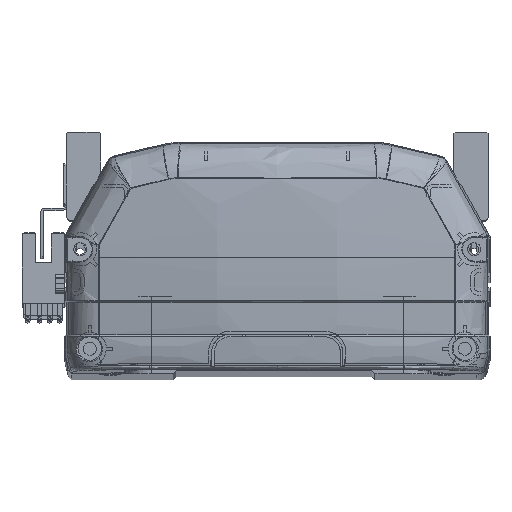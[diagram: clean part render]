
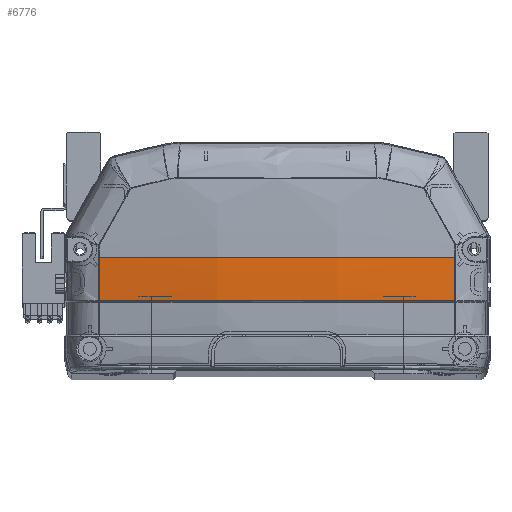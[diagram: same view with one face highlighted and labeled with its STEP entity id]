
A CAD part, top view. The second image highlights one B-rep face of the part: STEP entity #6776.
In plain terms, the highlighted free-form (B-spline) face has degree [3, 3] with [4, 4] control points.
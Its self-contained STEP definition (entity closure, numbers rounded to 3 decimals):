
#301 = CARTESIAN_POINT ( 'NONE',  ( 0., 36., 330.833 ) ) ;
#1183 = CARTESIAN_POINT ( 'NONE',  ( -56.661, 22.225, -4.818 ) ) ;
#1732 = CARTESIAN_POINT ( 'NONE',  ( 19.295, 26.549, -11.419 ) ) ;
#2045 = CARTESIAN_POINT ( 'NONE',  ( 57.335, 22.148, -4.7 ) ) ;
#2264 = CARTESIAN_POINT ( 'NONE',  ( 56.652, 26.806, -5.044 ) ) ;
#2423 = CARTESIAN_POINT ( 'NONE',  ( -56.661, 22.225, -4.818 ) ) ;
#4321 = CARTESIAN_POINT ( 'NONE',  ( -56.647, 36., -5.158 ) ) ;
#4584 = VERTEX_POINT ( 'NONE', #19327 ) ;
#5276 = CARTESIAN_POINT ( 'NONE',  ( -19.295, 21.828, -11.186 ) ) ;
#5638 = ORIENTED_EDGE ( 'NONE', *, *, #15032, .T. ) ;
#6036 = VERTEX_POINT ( 'NONE', #16436 ) ;
#6749 = B_SPLINE_CURVE_WITH_KNOTS ( 'NONE', 3,
 ( #42855, #2264, #28297, #27973 ),
 .UNSPECIFIED., .F., .F.,
 ( 4, 4 ),
 ( 0., 1. ),
 .UNSPECIFIED. ) ;
#6776 = ADVANCED_FACE ( 'NONE', ( #15512 ), #41373, .T. ) ;
#8910 = CARTESIAN_POINT ( 'NONE',  ( 47.432, 22.225, -6.377 ) ) ;
#9265 = CARTESIAN_POINT ( 'NONE',  ( -19.295, 36., -11.535 ) ) ;
#9410 = CARTESIAN_POINT ( 'NONE',  ( -57.335, 22.148, -4.7 ) ) ;
#11069 = AXIS2_PLACEMENT_3D ( 'NONE', #11828, #42309, #43116 ) ;
#11828 = CARTESIAN_POINT ( 'NONE',  ( 6452.613, 35.969, -5.158 ) ) ;
#12562 = CARTESIAN_POINT ( 'NONE',  ( 56.647, 36., -5.158 ) ) ;
#12620 = CIRCLE ( 'NONE', #28187, 340.733 ) ;
#12927 = CARTESIAN_POINT ( 'NONE',  ( 19.121, 22.225, -9.064 ) ) ;
#13111 = CARTESIAN_POINT ( 'NONE',  ( 57.335, 36., -5.042 ) ) ;
#15032 = EDGE_CURVE ( 'NONE', #6036, #29441, #15842, .T. ) ;
#15512 = FACE_OUTER_BOUND ( 'NONE', #29363, .T. ) ;
#15842 = B_SPLINE_CURVE_WITH_KNOTS ( 'NONE', 3,
 ( #45708, #8910, #16134, #45558, #12927, #30947, #20148, #34578, #16285, #23852, #31098, #16607, #38435 ),
 .UNSPECIFIED., .F., .F.,
 ( 4, 2, 2, 1, 2, 2, 4 ),
 ( 0., 0.25, 0.375, 0.438, 0.469, 0.5, 1. ),
 .UNSPECIFIED. ) ;
#16134 = CARTESIAN_POINT ( 'NONE',  ( 38.071, 22.225, -7.566 ) ) ;
#16285 = CARTESIAN_POINT ( 'NONE',  ( 2.357, 22.225, -9.562 ) ) ;
#16436 = CARTESIAN_POINT ( 'NONE',  ( 56.661, 22.225, -4.818 ) ) ;
#16607 = CARTESIAN_POINT ( 'NONE',  ( -38.235, 22.225, -7.93 ) ) ;
#16790 = CARTESIAN_POINT ( 'NONE',  ( 57.335, 26.762, -4.928 ) ) ;
#17060 = VERTEX_POINT ( 'NONE', #12562 ) ;
#19327 = CARTESIAN_POINT ( 'NONE',  ( 56.647, 35.969, -5.158 ) ) ;
#20148 = CARTESIAN_POINT ( 'NONE',  ( 8.363, 22.225, -9.48 ) ) ;
#20487 = CARTESIAN_POINT ( 'NONE',  ( 19.295, 36., -11.535 ) ) ;
#20670 = ORIENTED_EDGE ( 'NONE', *, *, #35273, .F. ) ;
#21576 = EDGE_CURVE ( 'NONE', #17060, #36621, #12620, .T. ) ;
#23852 = CARTESIAN_POINT ( 'NONE',  ( 1.152, 22.225, -9.568 ) ) ;
#23878 = CARTESIAN_POINT ( 'NONE',  ( -19.295, 26.549, -11.419 ) ) ;
#23970 = CIRCLE ( 'NONE', #11069, 6395.966 ) ;
#24855 = CARTESIAN_POINT ( 'NONE',  ( -56.652, 26.814, -5.045 ) ) ;
#27287 = CARTESIAN_POINT ( 'NONE',  ( 19.295, 31.274, -11.535 ) ) ;
#27611 = CARTESIAN_POINT ( 'NONE',  ( 57.335, 31.38, -5.042 ) ) ;
#27921 = CARTESIAN_POINT ( 'NONE',  ( -57.335, 31.38, -5.042 ) ) ;
#27973 = CARTESIAN_POINT ( 'NONE',  ( 56.647, 35.969, -5.158 ) ) ;
#28187 = AXIS2_PLACEMENT_3D ( 'NONE', #301, #29444, #40619 ) ;
#28297 = CARTESIAN_POINT ( 'NONE',  ( 56.647, 31.387, -5.158 ) ) ;
#29363 = EDGE_LOOP ( 'NONE', ( #37992, #42137, #44738, #5638, #20670 ) ) ;
#29441 = VERTEX_POINT ( 'NONE', #1183 ) ;
#29444 = DIRECTION ( 'NONE',  ( 0., 1., 0. ) ) ;
#30947 = CARTESIAN_POINT ( 'NONE',  ( 11.954, 22.225, -9.367 ) ) ;
#30968 = CARTESIAN_POINT ( 'NONE',  ( -19.295, 31.274, -11.535 ) ) ;
#31098 = CARTESIAN_POINT ( 'NONE',  ( -19.28, 22.225, -9.565 ) ) ;
#31576 = EDGE_CURVE ( 'NONE', #4584, #17060, #23970, .T. ) ;
#31588 = CARTESIAN_POINT ( 'NONE',  ( 19.295, 21.828, -11.186 ) ) ;
#31970 = B_SPLINE_CURVE_WITH_KNOTS ( 'NONE', 3,
 ( #35908, #46255, #24855, #2423 ),
 .UNSPECIFIED., .F., .F.,
 ( 4, 4 ),
 ( 0., 1. ),
 .UNSPECIFIED. ) ;
#34578 = CARTESIAN_POINT ( 'NONE',  ( 4.761, 22.225, -9.537 ) ) ;
#35273 = EDGE_CURVE ( 'NONE', #36621, #29441, #31970, .T. ) ;
#35280 = EDGE_CURVE ( 'NONE', #6036, #4584, #6749, .T. ) ;
#35908 = CARTESIAN_POINT ( 'NONE',  ( -56.647, 36., -5.158 ) ) ;
#36621 = VERTEX_POINT ( 'NONE', #4321 ) ;
#37992 = ORIENTED_EDGE ( 'NONE', *, *, #21576, .F. ) ;
#38298 = CARTESIAN_POINT ( 'NONE',  ( -57.335, 26.762, -4.928 ) ) ;
#38435 = CARTESIAN_POINT ( 'NONE',  ( -56.661, 22.225, -4.818 ) ) ;
#40619 = DIRECTION ( 'NONE',  ( 0., 0., -1. ) ) ;
#41373 =( BOUNDED_SURFACE ( )  B_SPLINE_SURFACE ( 3, 3, ( 
 ( #2045, #16790, #27611, #13111 ),
 ( #31588, #1732, #27287, #20487 ),
 ( #5276, #23878, #30968, #9265 ),
 ( #9410, #38298, #27921, #46210 ) ),
 .UNSPECIFIED., .F., .F., .T. ) 
 B_SPLINE_SURFACE_WITH_KNOTS ( ( 4, 4 ),
 ( 4, 4 ),
 ( 0., 1. ),
 ( 0., 1. ),
 .UNSPECIFIED. ) 
 GEOMETRIC_REPRESENTATION_ITEM ( )  RATIONAL_B_SPLINE_SURFACE ( (
 ( 1., 1., 1., 1.),
 ( 0.99, 0.99, 0.99, 0.99),
 ( 0.99, 0.99, 0.99, 0.99),
 ( 1., 1., 1., 1.) ) ) 
 REPRESENTATION_ITEM ( '' )  SURFACE ( )  );
#42137 = ORIENTED_EDGE ( 'NONE', *, *, #31576, .F. ) ;
#42309 = DIRECTION ( 'NONE',  ( 0., 0., -1. ) ) ;
#42855 = CARTESIAN_POINT ( 'NONE',  ( 56.661, 22.225, -4.818 ) ) ;
#43116 = DIRECTION ( 'NONE',  ( -1., 0., 0. ) ) ;
#44738 = ORIENTED_EDGE ( 'NONE', *, *, #35280, .F. ) ;
#45558 = CARTESIAN_POINT ( 'NONE',  ( 23.877, 22.225, -8.763 ) ) ;
#45708 = CARTESIAN_POINT ( 'NONE',  ( 56.661, 22.225, -4.818 ) ) ;
#46210 = CARTESIAN_POINT ( 'NONE',  ( -57.335, 36., -5.042 ) ) ;
#46255 = CARTESIAN_POINT ( 'NONE',  ( -56.647, 31.405, -5.158 ) ) ;
